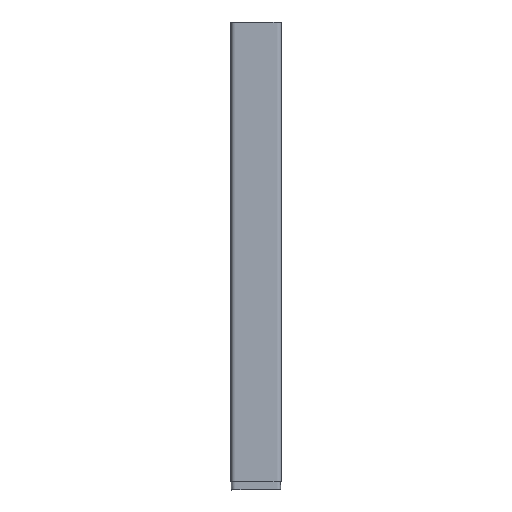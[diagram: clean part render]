
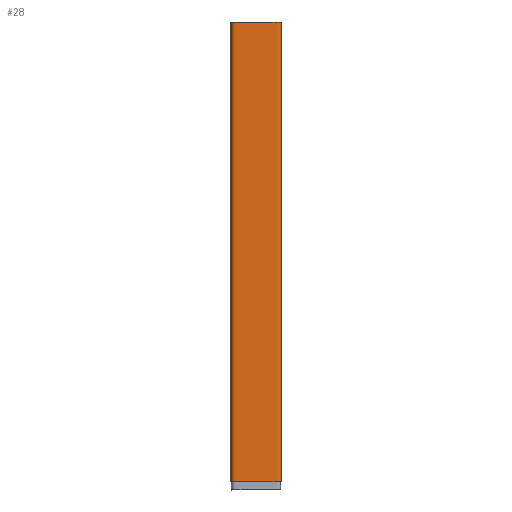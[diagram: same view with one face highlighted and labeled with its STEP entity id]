
A CAD part, left-side view. The second image highlights one B-rep face of the part: STEP entity #28.
In plain terms, the highlighted free-form (B-spline) face has degree [3, 2] with [10, 9] control points.
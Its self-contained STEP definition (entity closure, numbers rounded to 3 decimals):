
#28=ADVANCED_FACE('',(#48),#268,.T.);
#48=FACE_OUTER_BOUND('',#68,.T.);
#68=EDGE_LOOP('',(#124,#125,#126,#127));
#124=ORIENTED_EDGE('',*,*,#183,.T.);
#125=ORIENTED_EDGE('',*,*,#185,.T.);
#126=ORIENTED_EDGE('',*,*,#181,.F.);
#127=ORIENTED_EDGE('',*,*,#184,.F.);
#181=EDGE_CURVE('',#248,#249,#223,.T.);
#183=EDGE_CURVE('',#250,#251,#225,.T.);
#184=EDGE_CURVE('',#250,#248,#226,.T.);
#185=EDGE_CURVE('',#251,#249,#227,.T.);
#223=(
BOUNDED_CURVE()
B_SPLINE_CURVE(3,(#1223,#1224,#1225,#1226),.UNSPECIFIED.,.F.,.F.)
B_SPLINE_CURVE_WITH_KNOTS((4,4),(3078.997,4728.995),
 .UNSPECIFIED.)
CURVE()
GEOMETRIC_REPRESENTATION_ITEM()
RATIONAL_B_SPLINE_CURVE((1.,1.,1.,1.))
REPRESENTATION_ITEM('')
);
#225=(
BOUNDED_CURVE()
B_SPLINE_CURVE(3,(#1236,#1237,#1238,#1239),.UNSPECIFIED.,.F.,.F.)
B_SPLINE_CURVE_WITH_KNOTS((4,4),(3078.997,4728.995),
 .UNSPECIFIED.)
CURVE()
GEOMETRIC_REPRESENTATION_ITEM()
RATIONAL_B_SPLINE_CURVE((1.,1.,1.,1.))
REPRESENTATION_ITEM('')
);
#226=(
BOUNDED_CURVE()
B_SPLINE_CURVE(2,(#1240,#1241,#1242,#1243,#1244,#1245,#1246,#1247,#1248),
 .UNSPECIFIED.,.F.,.F.)
B_SPLINE_CURVE_WITH_KNOTS((3,2,2,2,3),(1242.81,1392.81,
1416.372,1566.372,1589.934),.UNSPECIFIED.)
CURVE()
GEOMETRIC_REPRESENTATION_ITEM()
RATIONAL_B_SPLINE_CURVE((1.,1.,1.,0.707,1.,1.,1.,0.707,
1.))
REPRESENTATION_ITEM('')
);
#227=(
BOUNDED_CURVE()
B_SPLINE_CURVE(2,(#1249,#1250,#1251,#1252,#1253,#1254,#1255,#1256,#1257),
 .UNSPECIFIED.,.F.,.F.)
B_SPLINE_CURVE_WITH_KNOTS((3,2,2,2,3),(1242.81,1392.81,
1416.372,1566.372,1589.934),.UNSPECIFIED.)
CURVE()
GEOMETRIC_REPRESENTATION_ITEM()
RATIONAL_B_SPLINE_CURVE((1.,1.,1.,0.707,1.,1.,1.,0.707,
1.))
REPRESENTATION_ITEM('')
);
#248=VERTEX_POINT('',#1206);
#249=VERTEX_POINT('',#1207);
#250=VERTEX_POINT('',#1208);
#251=VERTEX_POINT('',#1209);
#268=(
BOUNDED_SURFACE()
B_SPLINE_SURFACE(3,2,((#774,#775,#776,#777,#778,#779,#780,#781,#782),(#783,
#784,#785,#786,#787,#788,#789,#790,#791),(#792,#793,#794,#795,#796,#797,
#798,#799,#800),(#801,#802,#803,#804,#805,#806,#807,#808,#809),(#810,#811,
#812,#813,#814,#815,#816,#817,#818),(#819,#820,#821,#822,#823,#824,#825,
#826,#827),(#828,#829,#830,#831,#832,#833,#834,#835,#836),(#837,#838,#839,
#840,#841,#842,#843,#844,#845),(#846,#847,#848,#849,#850,#851,#852,#853,
#854),(#855,#856,#857,#858,#859,#860,#861,#862,#863)),.UNSPECIFIED.,.F.,
 .F.,.F.)
B_SPLINE_SURFACE_WITH_KNOTS((4,3,3,4),(3,2,2,2,3),(0.,302.991,
3280.26,3583.25),(0.,155.564,180.,335.564,
360.),.UNSPECIFIED.)
GEOMETRIC_REPRESENTATION_ITEM()
RATIONAL_B_SPLINE_SURFACE(((1.,1.,1.,0.707,1.,1.,1.,0.707,
1.),(1.,1.,1.,0.707,1.,1.,1.,0.707,1.),(1.,1.,1.,
0.707,1.,1.,1.,0.707,1.),(1.,1.,1.,0.707,
1.,1.,1.,0.707,1.),(1.,1.,1.,0.707,1.,1.,1.,0.707,
1.),(1.,1.,1.,0.707,1.,1.,1.,0.707,1.),(1.,1.,1.,
0.707,1.,1.,1.,0.707,1.),(1.,1.,1.,0.707,
1.,1.,1.,0.707,1.),(1.,1.,1.,0.707,1.,1.,1.,0.707,
1.),(1.,1.,1.,0.707,1.,1.,1.,0.707,1.)))
REPRESENTATION_ITEM('')
SURFACE()
);
#774=CARTESIAN_POINT('',(75.,90.,3660.264));
#775=CARTESIAN_POINT('',(0.,90.,3660.264));
#776=CARTESIAN_POINT('',(-75.,90.,3660.264));
#777=CARTESIAN_POINT('',(-90.,90.,3660.264));
#778=CARTESIAN_POINT('',(-90.,75.,3660.264));
#779=CARTESIAN_POINT('',(-90.,0.,3660.264));
#780=CARTESIAN_POINT('',(-90.,-75.,3660.264));
#781=CARTESIAN_POINT('',(-90.,-90.,3660.264));
#782=CARTESIAN_POINT('',(-75.,-90.,3660.264));
#783=CARTESIAN_POINT('',(75.,90.,3559.269));
#784=CARTESIAN_POINT('',(0.,90.,3559.269));
#785=CARTESIAN_POINT('',(-75.,90.,3559.269));
#786=CARTESIAN_POINT('',(-90.,90.,3559.269));
#787=CARTESIAN_POINT('',(-90.,75.,3559.269));
#788=CARTESIAN_POINT('',(-90.,0.,3559.269));
#789=CARTESIAN_POINT('',(-90.,-75.,3559.269));
#790=CARTESIAN_POINT('',(-90.,-90.,3559.269));
#791=CARTESIAN_POINT('',(-75.,-90.,3559.269));
#792=CARTESIAN_POINT('',(75.,90.,3458.274));
#793=CARTESIAN_POINT('',(0.,90.,3458.274));
#794=CARTESIAN_POINT('',(-75.,90.,3458.274));
#795=CARTESIAN_POINT('',(-90.,90.,3458.274));
#796=CARTESIAN_POINT('',(-90.,75.,3458.274));
#797=CARTESIAN_POINT('',(-90.,0.,3458.274));
#798=CARTESIAN_POINT('',(-90.,-75.,3458.274));
#799=CARTESIAN_POINT('',(-90.,-90.,3458.274));
#800=CARTESIAN_POINT('',(-75.,-90.,3458.274));
#801=CARTESIAN_POINT('',(75.,90.,3357.279));
#802=CARTESIAN_POINT('',(0.,90.,3357.279));
#803=CARTESIAN_POINT('',(-75.,90.,3357.279));
#804=CARTESIAN_POINT('',(-90.,90.,3357.279));
#805=CARTESIAN_POINT('',(-90.,75.,3357.279));
#806=CARTESIAN_POINT('',(-90.,0.,3357.279));
#807=CARTESIAN_POINT('',(-90.,-75.,3357.279));
#808=CARTESIAN_POINT('',(-90.,-90.,3357.279));
#809=CARTESIAN_POINT('',(-75.,-90.,3357.279));
#810=CARTESIAN_POINT('',(75.,90.,2364.874));
#811=CARTESIAN_POINT('',(0.,90.,2364.874));
#812=CARTESIAN_POINT('',(-75.,90.,2364.874));
#813=CARTESIAN_POINT('',(-90.,90.,2364.874));
#814=CARTESIAN_POINT('',(-90.,75.,2364.874));
#815=CARTESIAN_POINT('',(-90.,0.,2364.874));
#816=CARTESIAN_POINT('',(-90.,-75.,2364.874));
#817=CARTESIAN_POINT('',(-90.,-90.,2364.874));
#818=CARTESIAN_POINT('',(-75.,-90.,2364.874));
#819=CARTESIAN_POINT('',(75.,90.,1372.41));
#820=CARTESIAN_POINT('',(0.,90.,1372.41));
#821=CARTESIAN_POINT('',(-75.,90.,1372.41));
#822=CARTESIAN_POINT('',(-90.,90.,1372.41));
#823=CARTESIAN_POINT('',(-90.,75.,1372.41));
#824=CARTESIAN_POINT('',(-90.,0.,1372.41));
#825=CARTESIAN_POINT('',(-90.,-75.,1372.41));
#826=CARTESIAN_POINT('',(-90.,-90.,1372.41));
#827=CARTESIAN_POINT('',(-75.,-90.,1372.41));
#828=CARTESIAN_POINT('',(75.,90.,380.));
#829=CARTESIAN_POINT('',(0.,90.,380.));
#830=CARTESIAN_POINT('',(-75.,90.,380.));
#831=CARTESIAN_POINT('',(-90.,90.,380.));
#832=CARTESIAN_POINT('',(-90.,75.,380.));
#833=CARTESIAN_POINT('',(-90.,0.,380.));
#834=CARTESIAN_POINT('',(-90.,-75.,380.));
#835=CARTESIAN_POINT('',(-90.,-90.,380.));
#836=CARTESIAN_POINT('',(-75.,-90.,380.));
#837=CARTESIAN_POINT('',(75.,90.,279.005));
#838=CARTESIAN_POINT('',(0.,90.,279.005));
#839=CARTESIAN_POINT('',(-75.,90.,279.005));
#840=CARTESIAN_POINT('',(-90.,90.,279.005));
#841=CARTESIAN_POINT('',(-90.,75.,279.005));
#842=CARTESIAN_POINT('',(-90.,0.,279.005));
#843=CARTESIAN_POINT('',(-90.,-75.,279.005));
#844=CARTESIAN_POINT('',(-90.,-90.,279.005));
#845=CARTESIAN_POINT('',(-75.,-90.,279.005));
#846=CARTESIAN_POINT('',(75.,90.,178.01));
#847=CARTESIAN_POINT('',(0.,90.,178.01));
#848=CARTESIAN_POINT('',(-75.,90.,178.01));
#849=CARTESIAN_POINT('',(-90.,90.,178.01));
#850=CARTESIAN_POINT('',(-90.,75.,178.01));
#851=CARTESIAN_POINT('',(-90.,0.,178.01));
#852=CARTESIAN_POINT('',(-90.,-75.,178.01));
#853=CARTESIAN_POINT('',(-90.,-90.,178.01));
#854=CARTESIAN_POINT('',(-75.,-90.,178.01));
#855=CARTESIAN_POINT('',(75.,90.,77.015));
#856=CARTESIAN_POINT('',(0.,90.,77.015));
#857=CARTESIAN_POINT('',(-75.,90.,77.015));
#858=CARTESIAN_POINT('',(-90.,90.,77.015));
#859=CARTESIAN_POINT('',(-90.,75.,77.015));
#860=CARTESIAN_POINT('',(-90.,0.,77.015));
#861=CARTESIAN_POINT('',(-90.,-75.,77.015));
#862=CARTESIAN_POINT('',(-90.,-90.,77.015));
#863=CARTESIAN_POINT('',(-75.,-90.,77.015));
#1206=CARTESIAN_POINT('',(-75.,-90.,3270.));
#1207=CARTESIAN_POINT('',(-75.,-90.,1620.));
#1208=CARTESIAN_POINT('',(75.,90.,3270.));
#1209=CARTESIAN_POINT('',(75.,90.,1620.));
#1223=CARTESIAN_POINT('',(-75.,-90.,3270.));
#1224=CARTESIAN_POINT('',(-75.,-90.,2720.01));
#1225=CARTESIAN_POINT('',(-75.,-90.,2170.004));
#1226=CARTESIAN_POINT('',(-75.,-90.,1620.));
#1236=CARTESIAN_POINT('',(75.,90.,3270.));
#1237=CARTESIAN_POINT('',(75.,90.,2720.01));
#1238=CARTESIAN_POINT('',(75.,90.,2170.004));
#1239=CARTESIAN_POINT('',(75.,90.,1620.));
#1240=CARTESIAN_POINT('',(75.,90.,3270.));
#1241=CARTESIAN_POINT('',(0.,90.,3270.));
#1242=CARTESIAN_POINT('',(-75.,90.,3270.));
#1243=CARTESIAN_POINT('',(-90.,90.,3270.));
#1244=CARTESIAN_POINT('',(-90.,75.,3270.));
#1245=CARTESIAN_POINT('',(-90.,0.,3270.));
#1246=CARTESIAN_POINT('',(-90.,-75.,3270.));
#1247=CARTESIAN_POINT('',(-90.,-90.,3270.));
#1248=CARTESIAN_POINT('',(-75.,-90.,3270.));
#1249=CARTESIAN_POINT('',(75.,90.,1620.));
#1250=CARTESIAN_POINT('',(0.,90.,1620.));
#1251=CARTESIAN_POINT('',(-75.,90.,1620.));
#1252=CARTESIAN_POINT('',(-90.,90.,1620.));
#1253=CARTESIAN_POINT('',(-90.,75.,1620.));
#1254=CARTESIAN_POINT('',(-90.,0.,1620.));
#1255=CARTESIAN_POINT('',(-90.,-75.,1620.));
#1256=CARTESIAN_POINT('',(-90.,-90.,1620.));
#1257=CARTESIAN_POINT('',(-75.,-90.,1620.));
